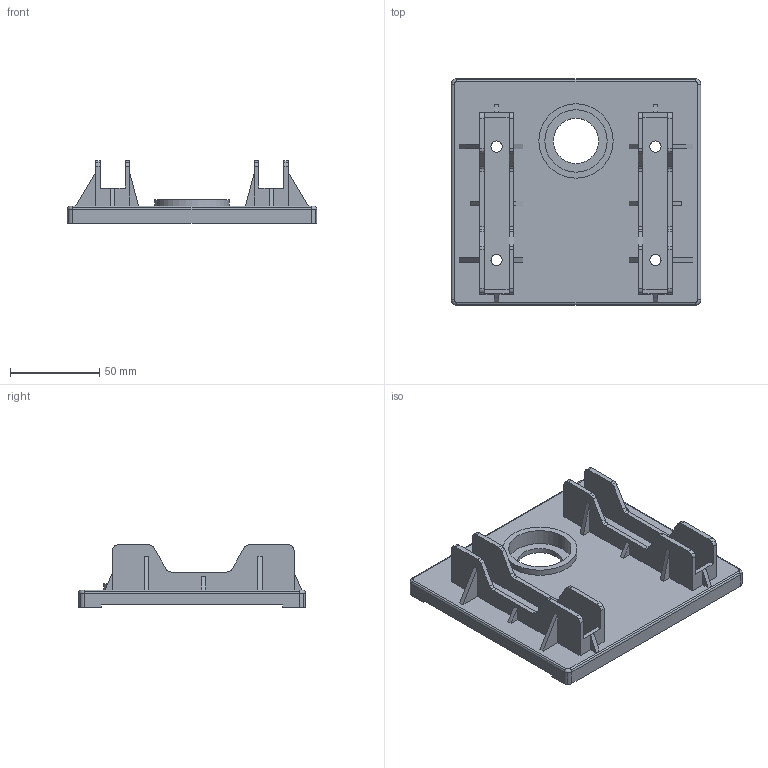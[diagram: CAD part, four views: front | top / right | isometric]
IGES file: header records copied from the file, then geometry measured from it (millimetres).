
Global section: file name: No Iges File Name specified; native system: AutoDesk Inventor R5.0; preprocessor: AutoDesk Inventor Iges Exporter R5.0; author: No Author specified; organization: No Organization specified; date: 20030119.154609; units: inch
Bounding box: 139.7 x 127 x 34.92 mm (x, y, z)
Volume: 97272.2 mm3; surface area: 67591.5 mm2
Topology: 1 solids, 1 shells, 252 faces, 716 edges, 472 vertices
Faces by surface type: plane 133, cylinder 64, bspline 39, revolution 16
